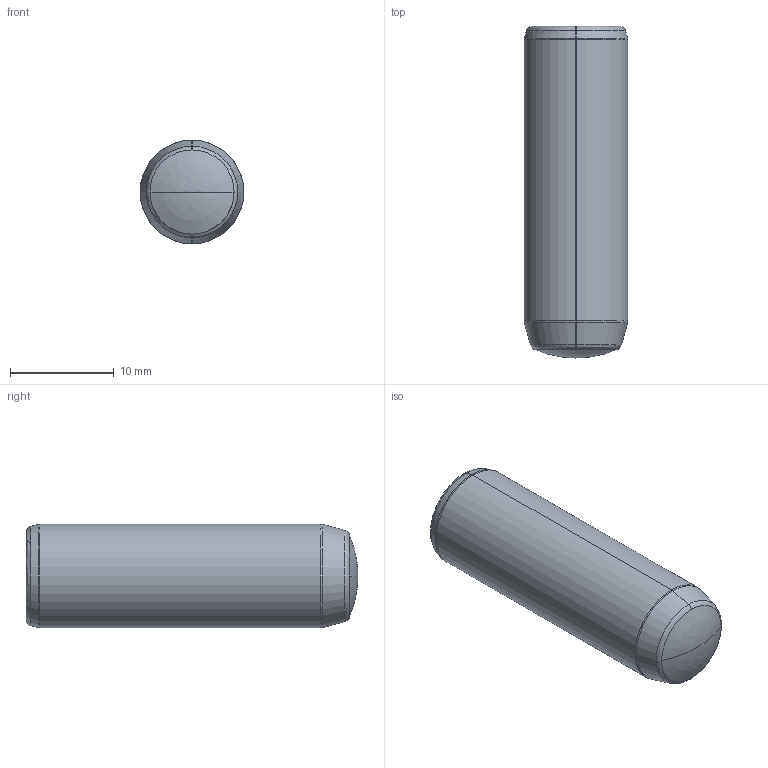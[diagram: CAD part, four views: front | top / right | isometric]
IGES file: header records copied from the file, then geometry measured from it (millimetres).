
Start section: SolidWorks IGES file using analytic representation for surfaces
Global section: file name: D:\Cleonir_arquivos\MT_15_07\Pinos Guia DIN 7979 ISO 8735 com rosca\PG710032.igs; native system: SolidWorks 2013; preprocessor: SolidWorks 2013; author: Cleonir; date: 130730.171133; units: millimetre
Bounding box: 10 x 32 x 10 mm (x, y, z)
Surface area: 1362.9 mm2 (no closed solid volume)
Topology: 0 solids, 0 shells, 286 faces, 2119 edges, 2116 vertices
Faces by surface type: bspline 264, revolution 22
